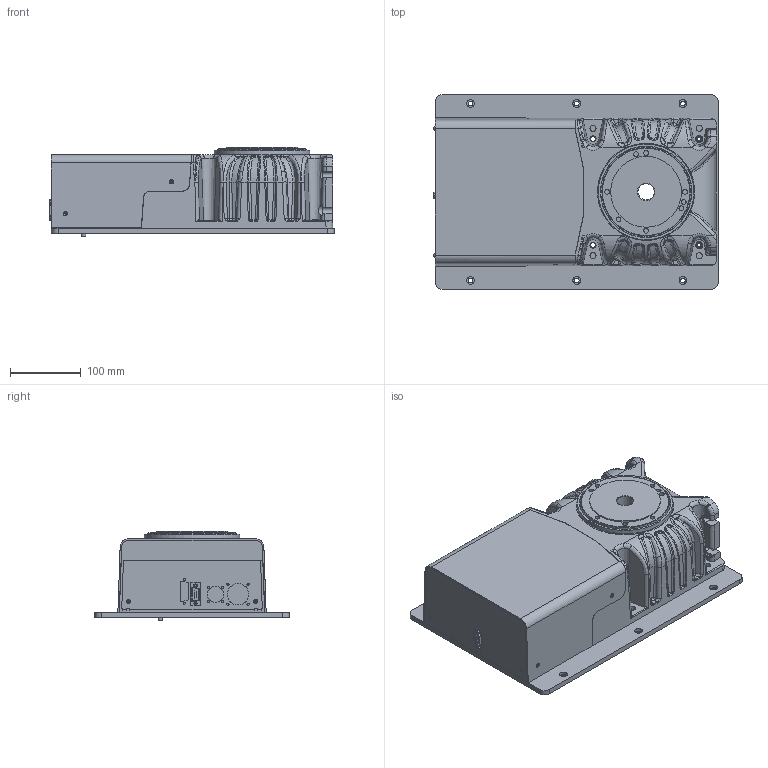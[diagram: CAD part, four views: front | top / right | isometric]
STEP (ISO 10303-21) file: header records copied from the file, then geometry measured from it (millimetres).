
FILE_DESCRIPTION (( 'STEP AP203' ), '1' );
FILE_NAME ('Rundschalttisch RF1 - Schrittmotor - Art 260241 X200.STEP', '2014-06-24T13:42:20', ( 'test' ), ( 'Microsoft' ), 'SwSTEP 2.0', 'SolidWorks 2014', '' );
FILE_SCHEMA (( 'CONFIG_CONTROL_DESIGN' ));
Products named in the file (1): Rundschalttisch RF1 - Schrittmotor - Art 260241 X200
Bounding box: 402 x 275 x 126.3 mm (x, y, z)
Volume: 3198884.1 mm3; surface area: 989350.5 mm2
Topology: 20 solids, 21 shells, 2271 faces, 5546 edges, 3343 vertices
Faces by surface type: plane 810, cylinder 561, bspline 477, cone 207, torus 113, sphere 103
Full cylindrical faces by diameter (mm): 1 x18, 1.5 x13, 1.7 x1, 2.05 x2, 2.4 x4, 2.5 x16, 2.7 x14, 3 x17, 3.2 x10, 3.3 x18, 3.4 x6, 3.5 x2, 4.2 x4, 4.6 x4, 5 x14, 5.5 x3, 6.35 x1, 6.6 x10, 6.8 x8, 8 x2, 8.5 x8, 10 x3, 10.7 x1, 11 x10, 23 x2, 24 x1, 26 x1, 29.4 x1, 30 x6, 32 x1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
Entity records: 80658 total; most frequent: CARTESIAN_POINT 32697, ORIENTED_EDGE 10060, DIRECTION 9260, EDGE_CURVE 5030, AXIS2_PLACEMENT_3D 3603, VERTEX_POINT 3218, EDGE_LOOP 2894, FACE_OUTER_BOUND 2514
